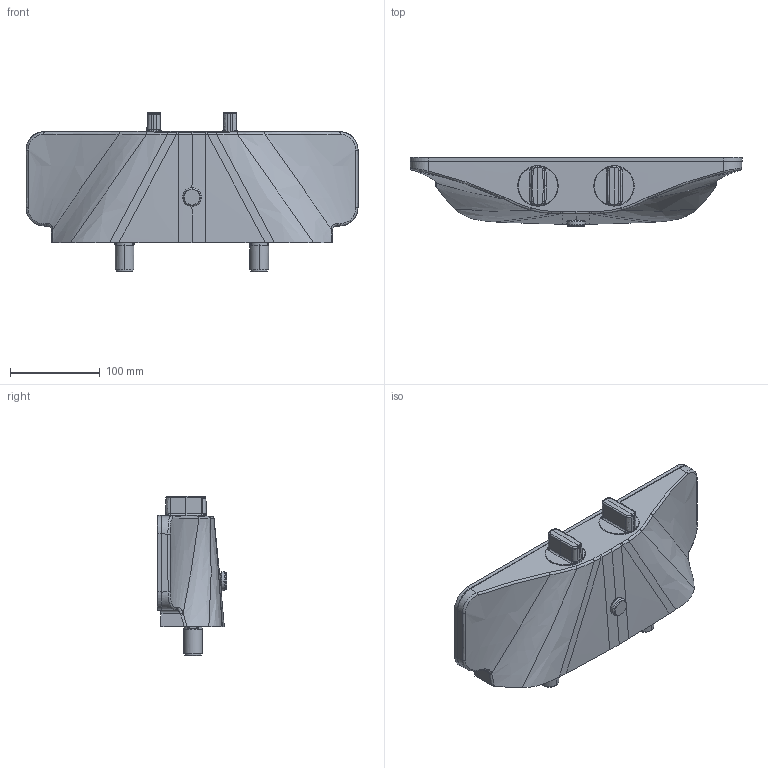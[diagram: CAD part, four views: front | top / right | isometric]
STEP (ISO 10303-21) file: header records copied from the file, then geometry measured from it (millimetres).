
FILE_DESCRIPTION (( 'STEP AP203' ), '1' );
FILE_NAME ('7560-11(2017).STEP', '2019-02-08T10:59:14', ( '' ), ( '' ), 'SwSTEP 2.0', 'SolidWorks 2016', '' );
FILE_SCHEMA (( 'CONFIG_CONTROL_DESIGN' ));
Length unit declared in the file: millimetre
Products named in the file (1): 7560-11(2017)
Bounding box: 370.6 x 77.5 x 177.7 mm (x, y, z)
Volume: 2193782.2 mm3; surface area: 146597.4 mm2
Topology: 1 solids, 1 shells, 372 faces, 959 edges, 589 vertices
Faces by surface type: bspline 151, cylinder 95, plane 73, torus 27, cone 18, sphere 8
Entity records: 22125 total; most frequent: CARTESIAN_POINT 14398, ORIENTED_EDGE 1904, DIRECTION 1155, EDGE_CURVE 952, VERTEX_POINT 589, AXIS2_PLACEMENT_3D 429, B_SPLINE_CURVE_WITH_KNOTS 420, EDGE_LOOP 379
